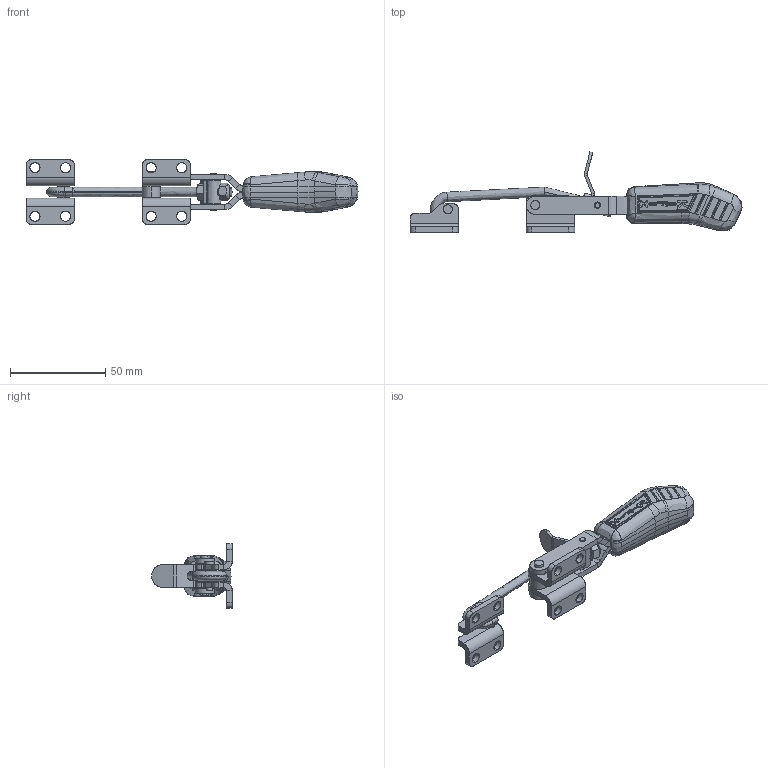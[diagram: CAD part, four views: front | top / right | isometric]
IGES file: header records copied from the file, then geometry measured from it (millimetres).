
Start section: SolidWorks IGES file using analytic representation for surfaces
Global section: file name: C:\Projetos\Grampos\KF-033\KF-033 D\KF-033 D.IGS; native system: SolidWorks 2013; preprocessor: SolidWorks 2013; author: Ricardo; date: 140821.145544; units: millimetre
Bounding box: 174.02 x 42.22 x 34 mm (x, y, z)
Surface area: 22782.3 mm2 (no closed solid volume)
Topology: 0 solids, 0 shells, 921 faces, 9261 edges, 9206 vertices
Faces by surface type: bspline 538, revolution 383
